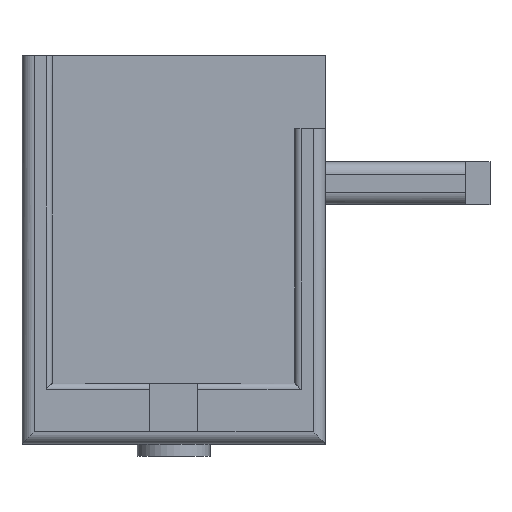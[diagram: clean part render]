
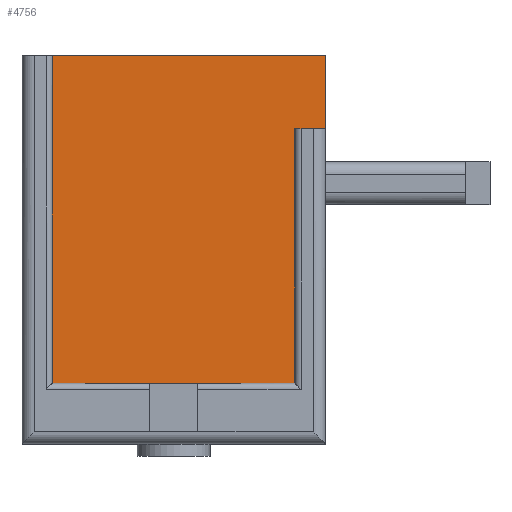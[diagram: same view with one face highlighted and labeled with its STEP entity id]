
A CAD part, top view. The second image highlights one B-rep face of the part: STEP entity #4756.
In plain terms, the highlighted planar face has unit normal (0, 0, 1).
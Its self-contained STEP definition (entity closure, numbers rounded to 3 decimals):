
#810 = PLANE('',#811);
#811 = AXIS2_PLACEMENT_3D('',#812,#813,#814);
#812 = CARTESIAN_POINT('',(0.,10.,0.));
#813 = DIRECTION('',(0.,1.,0.));
#814 = DIRECTION('',(0.,-0.,1.));
#1796 = PLANE('',#1797);
#1797 = AXIS2_PLACEMENT_3D('',#1798,#1799,#1800);
#1798 = CARTESIAN_POINT('',(-42.284,64.,27.71));
#1799 = DIRECTION('',(-1.,0.,0.));
#1800 = DIRECTION('',(0.,0.,1.));
#2556 = VERTEX_POINT('',#2557);
#2557 = CARTESIAN_POINT('',(3.716,10.,0.71));
#2571 = PLANE('',#2572);
#2572 = AXIS2_PLACEMENT_3D('',#2573,#2574,#2575);
#2573 = CARTESIAN_POINT('',(3.716,52.,27.71));
#2574 = DIRECTION('',(1.,0.,0.));
#2575 = DIRECTION('',(0.,0.,-1.));
#2583 = EDGE_CURVE('',#2584,#2556,#2586,.T.);
#2584 = VERTEX_POINT('',#2585);
#2585 = CARTESIAN_POINT('',(-42.284,10.,0.71));
#2586 = SURFACE_CURVE('',#2587,(#2591,#2598),.PCURVE_S1.);
#2587 = LINE('',#2588,#2589);
#2588 = CARTESIAN_POINT('',(-44.284,10.,0.71));
#2589 = VECTOR('',#2590,1.);
#2590 = DIRECTION('',(1.,0.,0.));
#2591 = PCURVE('',#810,#2592);
#2592 = DEFINITIONAL_REPRESENTATION('',(#2593),#2597);
#2593 = LINE('',#2594,#2595);
#2594 = CARTESIAN_POINT('',(0.71,-44.284));
#2595 = VECTOR('',#2596,1.);
#2596 = DIRECTION('',(0.,1.));
#2597 = ( GEOMETRIC_REPRESENTATION_CONTEXT(2) 
PARAMETRIC_REPRESENTATION_CONTEXT() REPRESENTATION_CONTEXT('2D SPACE',''
  ) );
#2598 = PCURVE('',#2599,#2604);
#2599 = PLANE('',#2600);
#2600 = AXIS2_PLACEMENT_3D('',#2601,#2602,#2603);
#2601 = CARTESIAN_POINT('',(-44.284,64.,0.71));
#2602 = DIRECTION('',(0.,0.,-1.));
#2603 = DIRECTION('',(-1.,0.,0.));
#2604 = DEFINITIONAL_REPRESENTATION('',(#2605),#2609);
#2605 = LINE('',#2606,#2607);
#2606 = CARTESIAN_POINT('',(0.,-54.));
#2607 = VECTOR('',#2608,1.);
#2608 = DIRECTION('',(-1.,0.));
#2609 = ( GEOMETRIC_REPRESENTATION_CONTEXT(2) 
PARAMETRIC_REPRESENTATION_CONTEXT() REPRESENTATION_CONTEXT('2D SPACE',''
  ) );
#2746 = PLANE('',#2747);
#2747 = AXIS2_PLACEMENT_3D('',#2748,#2749,#2750);
#2748 = CARTESIAN_POINT('',(0.,52.,0.));
#2749 = DIRECTION('',(0.,1.,0.));
#2750 = DIRECTION('',(0.,-0.,1.));
#3596 = EDGE_CURVE('',#2584,#3597,#3599,.T.);
#3597 = VERTEX_POINT('',#3598);
#3598 = CARTESIAN_POINT('',(-42.284,64.,0.71));
#3599 = SURFACE_CURVE('',#3600,(#3604,#3611),.PCURVE_S1.);
#3600 = LINE('',#3601,#3602);
#3601 = CARTESIAN_POINT('',(-42.284,64.,0.71));
#3602 = VECTOR('',#3603,1.);
#3603 = DIRECTION('',(0.,1.,0.));
#3604 = PCURVE('',#1796,#3605);
#3605 = DEFINITIONAL_REPRESENTATION('',(#3606),#3610);
#3606 = LINE('',#3607,#3608);
#3607 = CARTESIAN_POINT('',(-27.,0.));
#3608 = VECTOR('',#3609,1.);
#3609 = DIRECTION('',(0.,1.));
#3610 = ( GEOMETRIC_REPRESENTATION_CONTEXT(2) 
PARAMETRIC_REPRESENTATION_CONTEXT() REPRESENTATION_CONTEXT('2D SPACE',''
  ) );
#3611 = PCURVE('',#2599,#3612);
#3612 = DEFINITIONAL_REPRESENTATION('',(#3613),#3617);
#3613 = LINE('',#3614,#3615);
#3614 = CARTESIAN_POINT('',(-2.,0.));
#3615 = VECTOR('',#3616,1.);
#3616 = DIRECTION('',(0.,1.));
#3617 = ( GEOMETRIC_REPRESENTATION_CONTEXT(2) 
PARAMETRIC_REPRESENTATION_CONTEXT() REPRESENTATION_CONTEXT('2D SPACE',''
  ) );
#4471 = CYLINDRICAL_SURFACE('',#4472,2.);
#4472 = AXIS2_PLACEMENT_3D('',#4473,#4474,#4475);
#4473 = CARTESIAN_POINT('',(3.716,64.,0.71));
#4474 = DIRECTION('',(0.,-1.,0.));
#4475 = DIRECTION('',(0.,0.,-1.));
#4712 = VERTEX_POINT('',#4713);
#4713 = CARTESIAN_POINT('',(3.716,52.,0.71));
#4734 = EDGE_CURVE('',#4712,#2556,#4735,.T.);
#4735 = SURFACE_CURVE('',#4736,(#4740,#4747),.PCURVE_S1.);
#4736 = LINE('',#4737,#4738);
#4737 = CARTESIAN_POINT('',(3.716,64.,0.71));
#4738 = VECTOR('',#4739,1.);
#4739 = DIRECTION('',(0.,-1.,0.));
#4740 = PCURVE('',#2571,#4741);
#4741 = DEFINITIONAL_REPRESENTATION('',(#4742),#4746);
#4742 = LINE('',#4743,#4744);
#4743 = CARTESIAN_POINT('',(27.,12.));
#4744 = VECTOR('',#4745,1.);
#4745 = DIRECTION('',(0.,-1.));
#4746 = ( GEOMETRIC_REPRESENTATION_CONTEXT(2) 
PARAMETRIC_REPRESENTATION_CONTEXT() REPRESENTATION_CONTEXT('2D SPACE',''
  ) );
#4747 = PCURVE('',#2599,#4748);
#4748 = DEFINITIONAL_REPRESENTATION('',(#4749),#4753);
#4749 = LINE('',#4750,#4751);
#4750 = CARTESIAN_POINT('',(-48.,0.));
#4751 = VECTOR('',#4752,1.);
#4752 = DIRECTION('',(0.,-1.));
#4753 = ( GEOMETRIC_REPRESENTATION_CONTEXT(2) 
PARAMETRIC_REPRESENTATION_CONTEXT() REPRESENTATION_CONTEXT('2D SPACE',''
  ) );
#4756 = ADVANCED_FACE('',(#4757),#2599,.F.);
#4757 = FACE_BOUND('',#4758,.T.);
#4758 = EDGE_LOOP('',(#4759,#4760,#4783,#4806,#4832,#4833));
#4759 = ORIENTED_EDGE('',*,*,#4734,.F.);
#4760 = ORIENTED_EDGE('',*,*,#4761,.T.);
#4761 = EDGE_CURVE('',#4712,#4762,#4764,.T.);
#4762 = VERTEX_POINT('',#4763);
#4763 = CARTESIAN_POINT('',(5.716,52.,0.71));
#4764 = SURFACE_CURVE('',#4765,(#4769,#4776),.PCURVE_S1.);
#4765 = LINE('',#4766,#4767);
#4766 = CARTESIAN_POINT('',(-44.284,52.,0.71));
#4767 = VECTOR('',#4768,1.);
#4768 = DIRECTION('',(1.,0.,0.));
#4769 = PCURVE('',#2599,#4770);
#4770 = DEFINITIONAL_REPRESENTATION('',(#4771),#4775);
#4771 = LINE('',#4772,#4773);
#4772 = CARTESIAN_POINT('',(0.,-12.));
#4773 = VECTOR('',#4774,1.);
#4774 = DIRECTION('',(-1.,0.));
#4775 = ( GEOMETRIC_REPRESENTATION_CONTEXT(2) 
PARAMETRIC_REPRESENTATION_CONTEXT() REPRESENTATION_CONTEXT('2D SPACE',''
  ) );
#4776 = PCURVE('',#2746,#4777);
#4777 = DEFINITIONAL_REPRESENTATION('',(#4778),#4782);
#4778 = LINE('',#4779,#4780);
#4779 = CARTESIAN_POINT('',(0.71,-44.284));
#4780 = VECTOR('',#4781,1.);
#4781 = DIRECTION('',(0.,1.));
#4782 = ( GEOMETRIC_REPRESENTATION_CONTEXT(2) 
PARAMETRIC_REPRESENTATION_CONTEXT() REPRESENTATION_CONTEXT('2D SPACE',''
  ) );
#4783 = ORIENTED_EDGE('',*,*,#4784,.F.);
#4784 = EDGE_CURVE('',#4785,#4762,#4787,.T.);
#4785 = VERTEX_POINT('',#4786);
#4786 = CARTESIAN_POINT('',(5.716,64.,0.71));
#4787 = SURFACE_CURVE('',#4788,(#4792,#4799),.PCURVE_S1.);
#4788 = LINE('',#4789,#4790);
#4789 = CARTESIAN_POINT('',(5.716,64.,0.71));
#4790 = VECTOR('',#4791,1.);
#4791 = DIRECTION('',(0.,-1.,0.));
#4792 = PCURVE('',#2599,#4793);
#4793 = DEFINITIONAL_REPRESENTATION('',(#4794),#4798);
#4794 = LINE('',#4795,#4796);
#4795 = CARTESIAN_POINT('',(-50.,0.));
#4796 = VECTOR('',#4797,1.);
#4797 = DIRECTION('',(0.,-1.));
#4798 = ( GEOMETRIC_REPRESENTATION_CONTEXT(2) 
PARAMETRIC_REPRESENTATION_CONTEXT() REPRESENTATION_CONTEXT('2D SPACE',''
  ) );
#4799 = PCURVE('',#4471,#4800);
#4800 = DEFINITIONAL_REPRESENTATION('',(#4801),#4805);
#4801 = LINE('',#4802,#4803);
#4802 = CARTESIAN_POINT('',(1.571,0.));
#4803 = VECTOR('',#4804,1.);
#4804 = DIRECTION('',(0.,1.));
#4805 = ( GEOMETRIC_REPRESENTATION_CONTEXT(2) 
PARAMETRIC_REPRESENTATION_CONTEXT() REPRESENTATION_CONTEXT('2D SPACE',''
  ) );
#4806 = ORIENTED_EDGE('',*,*,#4807,.F.);
#4807 = EDGE_CURVE('',#3597,#4785,#4808,.T.);
#4808 = SURFACE_CURVE('',#4809,(#4813,#4820),.PCURVE_S1.);
#4809 = LINE('',#4810,#4811);
#4810 = CARTESIAN_POINT('',(-44.284,64.,0.71));
#4811 = VECTOR('',#4812,1.);
#4812 = DIRECTION('',(1.,0.,0.));
#4813 = PCURVE('',#2599,#4814);
#4814 = DEFINITIONAL_REPRESENTATION('',(#4815),#4819);
#4815 = LINE('',#4816,#4817);
#4816 = CARTESIAN_POINT('',(0.,0.));
#4817 = VECTOR('',#4818,1.);
#4818 = DIRECTION('',(-1.,0.));
#4819 = ( GEOMETRIC_REPRESENTATION_CONTEXT(2) 
PARAMETRIC_REPRESENTATION_CONTEXT() REPRESENTATION_CONTEXT('2D SPACE',''
  ) );
#4820 = PCURVE('',#4821,#4826);
#4821 = CYLINDRICAL_SURFACE('',#4822,2.);
#4822 = AXIS2_PLACEMENT_3D('',#4823,#4824,#4825);
#4823 = CARTESIAN_POINT('',(0.,62.,0.71));
#4824 = DIRECTION('',(1.,0.,0.));
#4825 = DIRECTION('',(0.,0.,-1.));
#4826 = DEFINITIONAL_REPRESENTATION('',(#4827),#4831);
#4827 = LINE('',#4828,#4829);
#4828 = CARTESIAN_POINT('',(1.571,-44.284));
#4829 = VECTOR('',#4830,1.);
#4830 = DIRECTION('',(0.,1.));
#4831 = ( GEOMETRIC_REPRESENTATION_CONTEXT(2) 
PARAMETRIC_REPRESENTATION_CONTEXT() REPRESENTATION_CONTEXT('2D SPACE',''
  ) );
#4832 = ORIENTED_EDGE('',*,*,#3596,.F.);
#4833 = ORIENTED_EDGE('',*,*,#2583,.T.);
